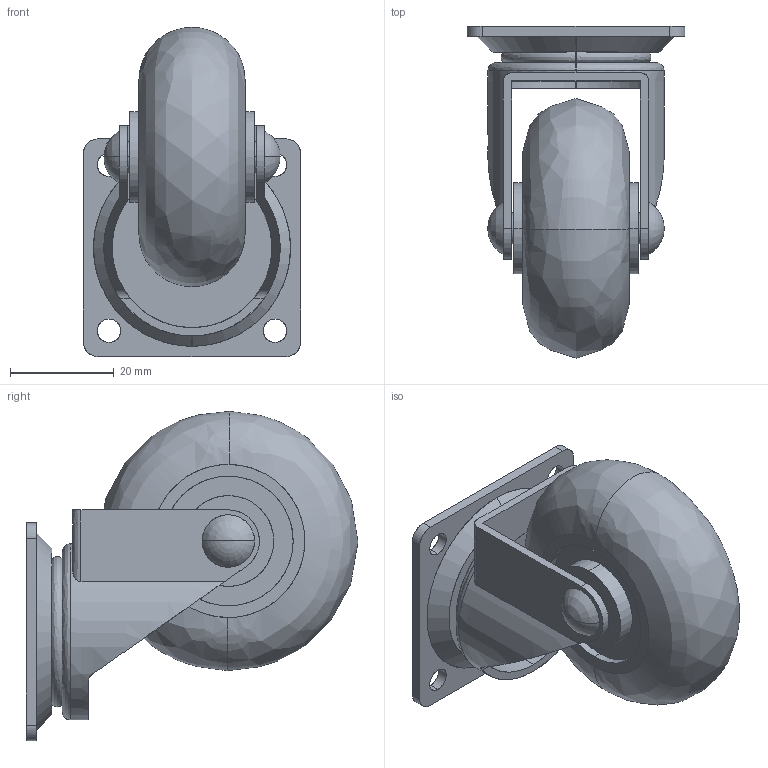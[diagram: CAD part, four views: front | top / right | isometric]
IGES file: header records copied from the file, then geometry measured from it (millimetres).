
Start section: SolidWorks IGES file using analytic representation for surfaces
Bounding box: 42 x 64 x 63.5 mm (x, y, z)
Surface area: 17650 mm2 (no closed solid volume)
Topology: 0 solids, 0 shells, 78 faces, 1955 edges, 1953 vertices
Faces by surface type: revolution 44, bspline 34
